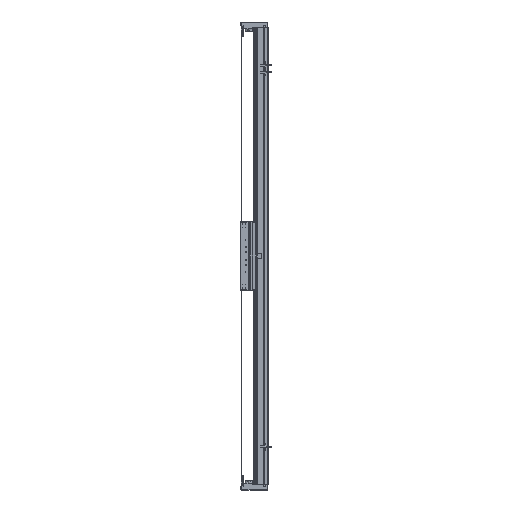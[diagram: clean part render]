
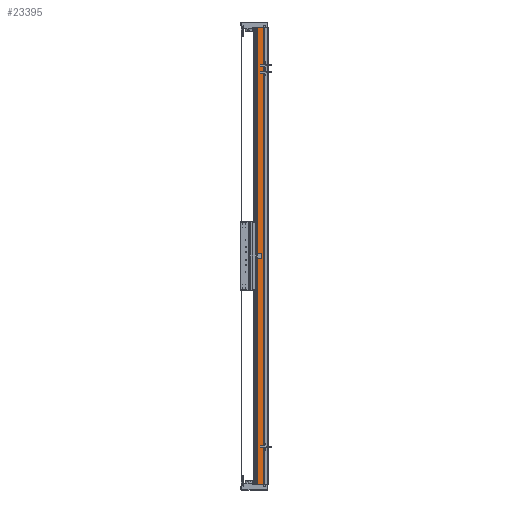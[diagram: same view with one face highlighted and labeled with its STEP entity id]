
A CAD part, left-side view. The second image highlights one B-rep face of the part: STEP entity #23395.
In plain terms, the highlighted planar face has unit normal (-1, 0, 0).
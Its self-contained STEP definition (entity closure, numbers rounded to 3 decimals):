
#652 = CARTESIAN_POINT ( 'NONE',  ( -97.5, 36.95, 840. ) ) ;
#1007 = EDGE_LOOP ( 'NONE', ( #67828, #28258, #101872, #76021 ) ) ;
#6217 = DIRECTION ( 'NONE',  ( 0., 0., -1. ) ) ;
#6457 = AXIS2_PLACEMENT_3D ( 'NONE', #652, #93213, #10329 ) ;
#10329 = DIRECTION ( 'NONE',  ( 0., 1., 0. ) ) ;
#12060 = DIRECTION ( 'NONE',  ( 0., -1., 0. ) ) ;
#13540 = VERTEX_POINT ( 'NONE', #62915 ) ;
#15703 = EDGE_CURVE ( 'NONE', #70156, #42897, #25601, .T. ) ;
#17117 = CARTESIAN_POINT ( 'NONE',  ( -97.5, 14.45, 840. ) ) ;
#23395 = ADVANCED_FACE ( 'NONE', ( #73896 ), #83558, .F. ) ;
#25496 = EDGE_CURVE ( 'NONE', #83218, #42897, #94720, .T. ) ;
#25601 = LINE ( 'NONE', #17117, #97076 ) ;
#28258 = ORIENTED_EDGE ( 'NONE', *, *, #15703, .F. ) ;
#35510 = EDGE_CURVE ( 'NONE', #13540, #83218, #118062, .T. ) ;
#42897 = VERTEX_POINT ( 'NONE', #91019 ) ;
#53974 = CARTESIAN_POINT ( 'NONE',  ( -97.5, 36.95, 840. ) ) ;
#54039 = DIRECTION ( 'NONE',  ( 0., 0., -1. ) ) ;
#62915 = CARTESIAN_POINT ( 'NONE',  ( -97.5, 36.95, 840. ) ) ;
#67828 = ORIENTED_EDGE ( 'NONE', *, *, #25496, .T. ) ;
#68713 = CARTESIAN_POINT ( 'NONE',  ( -97.5, 36.95, -840. ) ) ;
#70156 = VERTEX_POINT ( 'NONE', #86947 ) ;
#73896 = FACE_OUTER_BOUND ( 'NONE', #1007, .T. ) ;
#74809 = CARTESIAN_POINT ( 'NONE',  ( -97.5, 36.95, -840. ) ) ;
#76021 = ORIENTED_EDGE ( 'NONE', *, *, #35510, .T. ) ;
#78016 = LINE ( 'NONE', #106345, #99703 ) ;
#83218 = VERTEX_POINT ( 'NONE', #74809 ) ;
#83558 = PLANE ( 'NONE',  #6457 ) ;
#86947 = CARTESIAN_POINT ( 'NONE',  ( -97.5, 14.45, 840. ) ) ;
#89134 = VECTOR ( 'NONE', #105554, 1000. ) ;
#91019 = CARTESIAN_POINT ( 'NONE',  ( -97.5, 14.45, -840. ) ) ;
#93213 = DIRECTION ( 'NONE',  ( 1., 0., 0. ) ) ;
#94720 = LINE ( 'NONE', #68713, #89134 ) ;
#97076 = VECTOR ( 'NONE', #54039, 1000. ) ;
#99703 = VECTOR ( 'NONE', #12060, 1000. ) ;
#101872 = ORIENTED_EDGE ( 'NONE', *, *, #106268, .F. ) ;
#105554 = DIRECTION ( 'NONE',  ( 0., -1., 0. ) ) ;
#106268 = EDGE_CURVE ( 'NONE', #13540, #70156, #78016, .T. ) ;
#106345 = CARTESIAN_POINT ( 'NONE',  ( -97.5, 36.95, 840. ) ) ;
#113697 = VECTOR ( 'NONE', #6217, 1000. ) ;
#118062 = LINE ( 'NONE', #53974, #113697 ) ;
